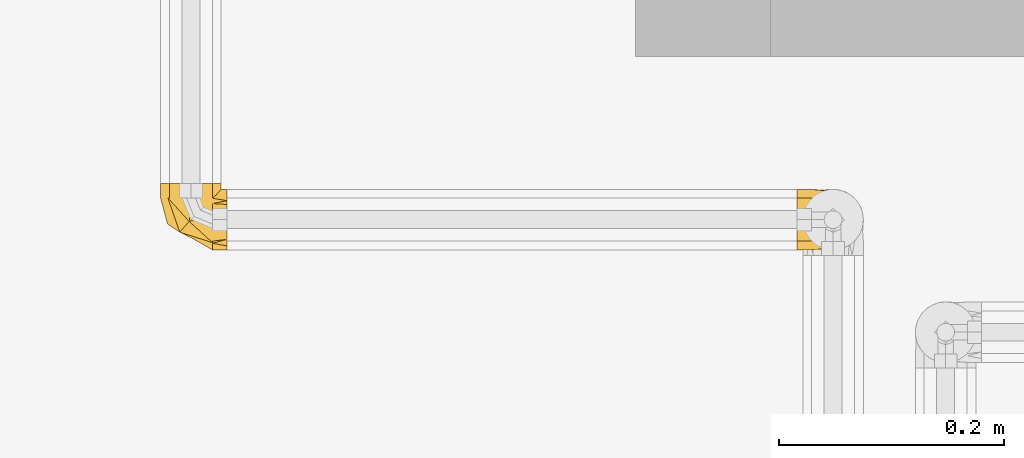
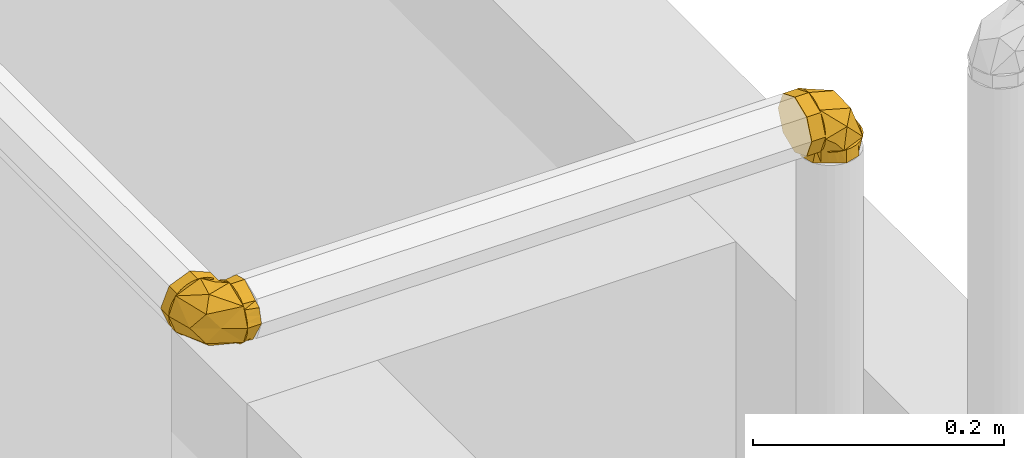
# One storey, part 386 of 652: 2 coverings.
"""IFC2X3 building model written with IfcOpenShell, lengths in millimetres."""

from ifc_helpers import new_model, entity, si_unit, converted_unit, direction, frame, origin, place, context, subcontext, project, spatial, face_set, surface_model, material, type_object, element, save


model = new_model("IFC2X3")

# Units and contexts
model_context = context("Model", 3, precision=0.01, world=frame((0.0, 0.0, 308426.39999999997)), true_north=direction((6.123233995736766e-17, 1.0)))
plan_context = context("Plan", 3, precision=0.01, world=frame((0.0, 0.0, 308426.39999999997)), true_north=direction((6.123233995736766e-17, 1.0)))
body_context = subcontext(model_context, "Body", "Model", "MODEL_VIEW")
ifc_project = project(units=[si_unit("LENGTHUNIT", "METRE", prefix="MILLI"), si_unit("AREAUNIT", "SQUARE_METRE"), si_unit("VOLUMEUNIT", "CUBIC_METRE"), converted_unit("PLANEANGLEUNIT", "DEGREE", entity("IfcPlaneAngleMeasure", 0.017453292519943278), si_unit("PLANEANGLEUNIT", "RADIAN"), dimensions=[0, 0, 0, 0, 0, 0, 0])], contexts=[model_context, plan_context])

# Site, building, storey
site_placement = place(None, origin())
site = spatial("IfcSite", under=ifc_project, at=site_placement, Name="Default", CompositionType="ELEMENT")
building_placement = place(site_placement, origin())
building = spatial("IfcBuilding", under=site, at=building_placement, CompositionType="ELEMENT")
storey_placement = place(building_placement, frame((0.0, 0.0, 1730.6999999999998)))
storey = spatial("IfcBuildingStorey", under=building, at=storey_placement, Name="EG_Produktion_FFB", CompositionType="ELEMENT", Elevation=1730.6999999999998)

# Coverings
ifc_material = material(Name="Dämmung - Armaflex-Schlauch")
covering_type = type_object("IfcCoveringType", Name="Rohrdämmung außen:Armaflex-Schlauch", PredefinedType="INSULATION")
covering_1_placement = place(storey_placement, frame((65626.46722776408, 48926.31488771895, 3771.467227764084)))
element("IfcCovering", 1, at=covering_1_placement, inside=storey, type_object=covering_type, material=ifc_material, Name="Rohrdämmung außen:Armaflex-Schlauch", ObjectType="Rohrdämmung außen:Armaflex-Schlauch", PredefinedType="INSULATION", context=body_context, shape_type="SurfaceModel", body=[
    surface_model("IfcFaceBasedSurfaceModel", [(47.750272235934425, 47.75027223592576, 9.656421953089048), (42.79223424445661, 47.75027223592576, 51.38658262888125), (37.040242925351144, 47.75027223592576, 54.09156424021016), (30.81456370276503, 47.75027223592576, 55.373456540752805), (24.461836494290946, 47.75027223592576, 55.16088498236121), (18.3357751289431, 47.75027223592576, 53.46568534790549), (12.777472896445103, 47.75027223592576, 50.38224474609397), (8.096410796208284, 47.750272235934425, 46.08224622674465), (4.553225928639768, 47.750272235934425, 40.805109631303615), (2.345199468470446, 47.750272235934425, 34.844660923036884), (1.5952722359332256, 47.750272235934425, 28.532772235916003), (2.345199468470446, 47.750272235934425, 22.220883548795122), (4.553225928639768, 47.750272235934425, 16.260434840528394), (8.096410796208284, 47.750272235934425, 10.98329824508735), (12.777472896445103, 47.75027223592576, 6.683299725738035), (18.3357751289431, 47.75027223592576, 3.599859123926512), (24.461836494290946, 47.75027223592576, 1.904659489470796), (30.81456370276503, 47.75027223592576, 1.6920879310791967), (37.040242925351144, 47.75027223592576, 2.973980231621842), (42.79223424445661, 47.75027223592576, 5.678961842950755), (47.750272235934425, 47.75027223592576, 47.40912251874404), (47.750272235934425, 42.79223424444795, 5.678961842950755), (47.750272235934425, 37.040242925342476, 2.973980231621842), (47.750272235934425, 30.81456370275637, 1.6920879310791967), (47.750272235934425, 24.461836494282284, 1.904659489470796), (47.750272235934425, 18.33577512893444, 3.599859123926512), (47.750272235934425, 12.77747289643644, 6.683299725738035), (47.75027223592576, 8.09641079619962, 10.98329824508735), (47.75027223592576, 4.553225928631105, 16.260434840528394), (47.75027223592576, 2.345199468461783, 22.220883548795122), (47.75027223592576, 1.5952722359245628, 28.532772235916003), (47.75027223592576, 2.345199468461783, 34.844660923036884), (47.75027223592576, 4.553225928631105, 40.805109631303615), (47.75027223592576, 8.09641079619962, 46.08224622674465), (47.750272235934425, 12.77747289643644, 50.38224474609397), (47.750272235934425, 18.33577512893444, 53.46568534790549), (47.750272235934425, 24.461836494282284, 55.16088498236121), (47.750272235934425, 30.81456370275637, 55.373456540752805), (47.750272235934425, 37.040242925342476, 54.09156424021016), (47.750272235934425, 42.79223424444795, 51.38658262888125), (39.068807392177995, 37.80802487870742, 2.2764383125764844), (7.777694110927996, 24.673942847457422, 28.53297517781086), (19.456051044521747, 47.75160398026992, 6.3378183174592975), (26.953267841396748, 26.952873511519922, 3.5996133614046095), (18.674703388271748, 17.33485593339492, 14.285007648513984), (29.487996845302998, 12.13982419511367, 28.53297517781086), (47.751998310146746, 19.45565671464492, 6.3378183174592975), (18.674703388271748, 17.33485593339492, 42.78036134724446), (39.068807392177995, 37.80802487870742, 54.789512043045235), (26.953267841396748, 26.952873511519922, 53.46575563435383), (47.751998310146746, 19.45565671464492, 50.72813203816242), (19.456051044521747, 47.75160398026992, 50.72813203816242), (1.5952722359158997, 60.516522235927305, 28.532772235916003), (3.567725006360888, 60.516522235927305, 33.29469446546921), (5.540177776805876, 60.516522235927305, 38.05661669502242), (7.512630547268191, 60.516522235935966, 42.818538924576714), (9.485083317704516, 60.516522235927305, 47.58046115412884), (14.247005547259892, 60.516522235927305, 49.552913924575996), (19.008927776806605, 60.516522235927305, 51.525366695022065), (23.77085000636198, 60.516522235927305, 53.49781946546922), (28.532772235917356, 60.516522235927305, 55.470272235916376), (33.29469446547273, 60.516522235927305, 53.49781946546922), (38.056616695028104, 60.516522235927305, 51.525366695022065), (42.81853892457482, 60.516522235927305, 49.552913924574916), (47.5804611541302, 60.516522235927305, 47.58046115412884), (49.552913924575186, 60.516522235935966, 42.818538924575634), (51.525366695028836, 60.516522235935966, 38.05661669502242), (53.497819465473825, 60.516522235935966, 33.29469446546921), (55.47027223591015, 60.516522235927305, 28.532772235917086), (53.497819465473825, 60.516522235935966, 23.770850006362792), (51.525366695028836, 60.516522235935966, 19.008927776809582), (49.55291392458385, 60.516522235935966, 14.247005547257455), (47.5804611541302, 60.516522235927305, 9.485083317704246), (42.81853892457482, 60.516522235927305, 7.512630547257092), (38.056616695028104, 60.516522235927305, 5.540177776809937), (33.29469446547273, 60.516522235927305, 3.567725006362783), (28.532772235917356, 60.516522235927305, 1.595272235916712), (23.770850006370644, 60.516522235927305, 3.567725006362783), (19.008927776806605, 60.516522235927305, 5.540177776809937), (14.247005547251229, 60.516522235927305, 7.512630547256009), (9.485083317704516, 60.516522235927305, 9.485083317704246), (7.512630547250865, 60.516522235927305, 14.247005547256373), (5.540177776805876, 60.516522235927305, 19.008927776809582), (3.567725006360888, 60.516522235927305, 23.770850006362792), (1.5952722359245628, 47.75027223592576, 28.532772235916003), (3.567725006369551, 47.75027223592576, 23.770850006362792), (5.540177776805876, 47.75027223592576, 19.0089277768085), (7.512630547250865, 47.75027223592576, 14.24700554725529), (9.48508331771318, 47.75027223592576, 9.485083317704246), (15.253472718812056, 47.75027223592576, 7.095738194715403), (21.02186211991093, 47.7502722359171, 4.7063930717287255), (28.532772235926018, 47.75027223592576, 1.595272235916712), (33.29469446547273, 47.75027223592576, 3.567725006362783), (38.056616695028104, 47.75027223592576, 5.540177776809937), (42.81853892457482, 47.75027223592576, 7.512630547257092), (47.58046115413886, 47.75027223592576, 9.485083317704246), (49.96980627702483, 47.75027223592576, 15.25347271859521), (52.35915139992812, 47.75027223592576, 21.021862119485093), (55.47027223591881, 47.75027223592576, 28.532772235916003), (53.49781946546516, 47.75027223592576, 33.29469446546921), (51.525366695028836, 47.75027223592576, 38.05661669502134), (49.55291392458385, 47.75027223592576, 42.81853892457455), (47.58046115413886, 47.75027223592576, 47.58046115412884), (41.8120717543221, 47.75027223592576, 49.96980627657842), (36.043682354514, 47.750272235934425, 52.359151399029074), (28.532772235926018, 47.75027223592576, 55.470272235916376), (23.77085000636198, 47.75027223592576, 53.49781946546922), (19.008927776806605, 47.75027223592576, 51.52536669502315), (14.247005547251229, 47.7502722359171, 49.552913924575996), (9.48508331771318, 47.75027223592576, 47.58046115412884), (7.095738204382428, 47.75027223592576, 41.81207177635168), (4.706393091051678, 47.75027223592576, 36.043682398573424), (60.51652223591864, 1.5952722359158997, 28.532772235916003), (60.51652223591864, 4.962459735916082, 22.700632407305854), (60.51652223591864, 8.329647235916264, 16.868492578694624), (60.51652223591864, 11.696834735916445, 11.036352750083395), (60.51652223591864, 15.064022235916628, 5.204212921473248), (60.51652223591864, 21.79839723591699, 3.399742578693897), (60.51652223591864, 28.532772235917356, 1.595272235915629), (60.516522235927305, 34.36491206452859, 4.962459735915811), (60.51652223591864, 40.197051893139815, 8.329647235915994), (60.51652223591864, 46.02919172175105, 11.696834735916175), (60.51652223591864, 51.86133155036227, 15.064022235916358), (60.51652223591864, 53.66580189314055, 21.79839723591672), (60.51652223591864, 55.47027223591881, 28.532772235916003), (60.516522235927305, 52.10308473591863, 34.36491206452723), (60.51652223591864, 48.73589723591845, 40.19705189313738), (60.51652223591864, 45.368709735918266, 46.02919172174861), (60.51652223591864, 42.00152223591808, 51.86133155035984), (60.51652223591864, 35.26714723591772, 53.66580189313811), (60.51652223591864, 28.532772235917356, 55.470272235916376), (60.516522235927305, 22.700632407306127, 52.10308473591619), (60.51652223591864, 16.868492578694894, 48.73589723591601), (60.51652223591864, 11.036352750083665, 45.36870973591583), (60.51652223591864, 5.204212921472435, 42.00152223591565), (60.51652223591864, 3.3997425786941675, 35.26714723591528), (47.750272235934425, 33.29469446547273, 53.49781946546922), (47.75027223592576, 38.056616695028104, 51.525366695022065), (47.750272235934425, 42.818538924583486, 49.552913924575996), (47.75027223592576, 47.5804611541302, 47.58046115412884), (47.75027223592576, 49.552913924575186, 42.818538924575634), (47.75027223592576, 51.525366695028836, 38.05661669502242), (47.75027223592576, 53.497819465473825, 33.29469446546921), (47.75027223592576, 55.47027223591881, 28.532772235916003), (47.75027223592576, 53.497819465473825, 23.770850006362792), (47.75027223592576, 51.525366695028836, 19.008927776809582), (47.750272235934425, 49.55291392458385, 14.247005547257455), (47.75027223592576, 47.5804611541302, 9.485083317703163), (47.7502722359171, 42.81853892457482, 7.512630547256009), (47.75027223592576, 38.056616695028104, 5.540177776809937), (47.75027223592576, 33.29469446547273, 3.567725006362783), (47.75027223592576, 28.532772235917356, 1.595272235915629), (47.75027223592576, 23.77085000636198, 3.567725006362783), (47.75027223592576, 19.008927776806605, 5.540177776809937), (47.7502722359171, 14.247005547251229, 7.512630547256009), (47.75027223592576, 9.485083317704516, 9.485083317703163), (47.75027223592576, 7.512630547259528, 14.247005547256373), (47.75027223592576, 5.540177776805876, 19.008927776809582), (47.7502722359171, 3.567725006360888, 23.77085000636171), (47.75027223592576, 1.5952722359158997, 28.532772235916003), (47.75027223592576, 3.567725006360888, 33.29469446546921), (47.75027223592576, 5.540177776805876, 38.05661669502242), (47.7502722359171, 7.512630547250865, 42.81853892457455), (47.75027223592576, 9.485083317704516, 47.58046115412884), (47.75027223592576, 14.247005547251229, 49.552913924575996), (47.75027223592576, 19.008927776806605, 51.525366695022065), (47.75027223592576, 23.77085000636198, 53.49781946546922), (47.75027223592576, 28.532772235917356, 55.470272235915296)], [face_set([[[0, 1, 2, 3, 4, 5, 6, 7, 8, 9, 10, 11, 12, 13, 14, 15, 16, 17, 18, 19]], [[20, 21, 22, 23, 24, 25, 26, 27, 28, 29, 30, 31, 32, 33, 34, 35, 36, 37, 38, 39]], [[0, 40, 17]], [[10, 13, 41]], [[42, 17, 43, 13]], [[40, 43, 17]], [[23, 40, 0]], [[13, 43, 44]], [[45, 41, 44]], [[13, 44, 41]], [[27, 30, 45]], [[45, 44, 27]], [[43, 27, 44]], [[43, 23, 46, 27]], [[23, 43, 40]], [[7, 10, 41]], [[33, 47, 45]], [[45, 30, 33]], [[48, 49, 37]], [[49, 33, 50]], [[3, 49, 48]], [[45, 47, 41]], [[20, 48, 37]], [[47, 49, 7]], [[3, 48, 20]], [[41, 47, 7]], [[49, 3, 51]], [[33, 49, 47]], [[50, 37, 49]], [[51, 7, 49]]]), face_set([[[52, 53, 54, 55, 56, 57, 58, 59, 60, 61, 62, 63, 64, 65, 66, 67, 68, 69, 70, 71, 72, 73, 74, 75, 76, 77, 78, 79, 80, 81, 82, 83]], [[84, 85, 86, 87, 88, 89, 90, 91, 92, 93, 94, 95, 96, 97, 98, 99, 100, 101, 102, 103, 104, 105, 106, 107, 108, 109, 110, 111]], [[111, 110, 109, 56, 55, 54, 53, 52, 84]], [[56, 109, 108, 107, 106, 105, 60, 59, 58, 57]], [[104, 103, 102, 64, 63, 62, 61, 60, 105]], [[64, 102, 101, 100, 99, 98, 68, 67, 66, 65]], [[97, 96, 95, 72, 71, 70, 69, 68, 98]], [[72, 95, 94, 93, 92, 91, 76, 75, 74, 73]], [[90, 89, 88, 80, 79, 78, 77, 76, 91]], [[80, 88, 87, 86, 85, 84, 52, 83, 82, 81]]]), face_set([[[112, 113, 114, 115, 116, 117, 118, 119, 120, 121, 122, 123, 124, 125, 126, 127, 128, 129, 130, 131, 132, 133, 134, 135]], [[136, 137, 138, 139, 140, 141, 142, 143, 144, 145, 146, 147, 148, 149, 150, 151, 152, 153, 154, 155, 156, 157, 158, 159, 160, 161, 162, 163, 164, 165, 166, 167]], [[146, 121, 147]], [[118, 150, 119]], [[150, 149, 119]], [[123, 145, 144]], [[144, 143, 124]], [[121, 146, 122]], [[120, 149, 148]], [[118, 151, 150]], [[149, 120, 119]], [[124, 123, 144]], [[148, 147, 121]], [[146, 145, 122]], [[123, 122, 145]], [[120, 148, 121]], [[154, 115, 155]], [[112, 158, 113]], [[158, 157, 113]], [[117, 153, 152]], [[152, 151, 118]], [[115, 154, 116]], [[114, 157, 156]], [[112, 159, 158]], [[157, 114, 113]], [[118, 117, 152]], [[156, 155, 115]], [[154, 153, 116]], [[117, 116, 153]], [[114, 156, 115]], [[162, 133, 163]], [[130, 166, 131]], [[166, 165, 131]], [[135, 161, 160]], [[160, 159, 112]], [[133, 162, 134]], [[132, 165, 164]], [[130, 167, 166]], [[165, 132, 131]], [[112, 135, 160]], [[164, 163, 133]], [[162, 161, 134]], [[135, 134, 161]], [[132, 164, 133]], [[138, 127, 139]], [[124, 142, 125]], [[142, 141, 125]], [[129, 137, 136]], [[136, 167, 130]], [[127, 138, 128]], [[126, 141, 140]], [[124, 143, 142]], [[141, 126, 125]], [[130, 129, 136]], [[140, 139, 127]], [[138, 137, 128]], [[129, 128, 137]], [[126, 140, 127]]])]),
])
covering_2_placement = place(storey_placement, frame((66193.50701735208, 48926.31488771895, 3828.532772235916)))
element("IfcCovering", 2, at=covering_2_placement, inside=storey, type_object=covering_type, material=ifc_material, Name="Rohrdämmung außen:Armaflex-Schlauch", ObjectType="Rohrdämmung außen:Armaflex-Schlauch", PredefinedType="INSULATION", context=body_context, shape_type="SurfaceModel", body=[
    surface_model("IfcFaceBasedSurfaceModel", [(12.766250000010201, 9.65642195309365, -47.75027223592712), (12.766250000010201, 5.678961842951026, -42.79223424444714), (12.766250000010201, 2.973980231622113, -37.040242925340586), (12.766250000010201, 1.6920879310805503, -30.814563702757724), (12.766250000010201, 1.904659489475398, -24.461836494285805), (12.766250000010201, 3.599859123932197, -18.335775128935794), (12.766250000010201, 6.683299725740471, -12.77747289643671), (12.766250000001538, 10.983298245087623, -8.096410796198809), (12.766250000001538, 16.26043484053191, -4.553225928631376), (12.766250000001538, 22.220883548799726, -2.3451994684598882), (12.766250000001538, 28.532772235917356, -1.595272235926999), (12.766250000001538, 34.844660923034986, -2.3451994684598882), (12.766250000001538, 40.8051096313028, -4.553225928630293), (12.766250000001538, 46.08224622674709, -8.096410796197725), (12.766250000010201, 50.38224474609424, -12.77747289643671), (12.766250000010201, 53.465685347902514, -18.33577512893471), (12.766250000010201, 55.16088498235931, -24.461836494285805), (12.766250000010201, 55.37345654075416, -30.814563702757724), (12.766250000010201, 54.0915642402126, -37.040242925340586), (12.766250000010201, 51.38658262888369, -42.79223424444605), (12.766250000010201, 47.409122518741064, -47.75027223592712), (17.72428799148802, 51.38658262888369, -47.75027223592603), (23.476279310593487, 54.0915642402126, -47.75027223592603), (29.701958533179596, 55.37345654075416, -47.75027223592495), (36.05468574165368, 55.16088498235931, -47.75027223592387), (42.18074710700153, 53.465685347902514, -47.75027223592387), (47.73904933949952, 50.38224474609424, -47.750272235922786), (52.420111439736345, 46.08224622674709, -47.750272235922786), (55.96329630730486, 40.8051096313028, -47.750272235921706), (58.17132276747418, 34.844660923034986, -47.750272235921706), (58.921250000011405, 28.532772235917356, -47.750272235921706), (58.17132276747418, 22.220883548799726, -47.750272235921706), (55.96329630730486, 16.26043484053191, -47.750272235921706), (52.420111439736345, 10.983298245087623, -47.750272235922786), (47.73904933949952, 6.683299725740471, -47.750272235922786), (42.18074710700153, 3.599859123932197, -47.75027223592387), (36.05468574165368, 1.904659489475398, -47.75027223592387), (29.701958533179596, 1.6920879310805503, -47.75027223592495), (23.476279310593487, 2.973980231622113, -47.75027223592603), (17.72428799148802, 5.678961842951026, -47.75027223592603), (22.70703294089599, 2.27531003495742, -39.06971681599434), (35.84576585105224, 28.534172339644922, -7.778603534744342), (12.768104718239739, 6.33552732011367, -19.455216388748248), (33.56683518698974, 3.60081052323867, -26.951270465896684), (43.18485276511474, 14.28387937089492, -18.67503145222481), (48.37523362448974, 28.534172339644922, -29.486580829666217), (41.05940110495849, 6.33552732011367, -47.750000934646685), (43.18485276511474, 42.779814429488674, -18.67503145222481), (33.56683518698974, 53.46753415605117, -26.951270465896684), (22.70703294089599, 54.78838376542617, -39.06971681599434), (41.05940110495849, 50.72816648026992, -47.750000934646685), (12.768104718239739, 50.72816648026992, -19.455216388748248), (0.0, 28.532772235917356, -1.5952722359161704), (0.0, 33.29469446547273, -3.567725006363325), (0.0, 38.056616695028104, -5.540177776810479), (0.0, 42.818538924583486, -7.51263054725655), (0.0, 47.5804611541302, -9.485083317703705), (0.0, 49.55291392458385, -14.247005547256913), (0.0, 51.525366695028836, -19.008927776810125), (0.0, 53.497819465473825, -23.770850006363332), (0.0, 55.47027223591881, -28.532772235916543), (0.0, 53.497819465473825, -33.29469446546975), (0.0, 51.525366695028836, -38.05661669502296), (0.0, 49.552913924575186, -42.818538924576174), (0.0, 47.5804611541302, -47.58046115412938), (0.0, 42.818538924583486, -49.552913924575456), (0.0, 38.056616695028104, -51.52536669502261), (0.0, 33.29469446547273, -53.49781946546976), (0.0, 28.532772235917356, -55.470272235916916), (0.0, 23.77085000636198, -53.49781946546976), (0.0, 19.008927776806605, -51.52536669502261), (0.0, 14.247005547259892, -49.552913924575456), (0.0, 9.485083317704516, -47.58046115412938), (0.0, 7.512630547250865, -42.818538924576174), (0.0, 5.540177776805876, -38.05661669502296), (0.0, 3.567725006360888, -33.29469446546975), (0.0, 1.5952722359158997, -28.532772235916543), (0.0, 3.567725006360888, -23.770850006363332), (0.0, 5.540177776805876, -19.008927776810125), (0.0, 7.512630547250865, -14.247005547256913), (0.0, 9.485083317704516, -9.485083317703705), (0.0, 14.247005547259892, -7.51263054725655), (0.0, 19.008927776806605, -5.540177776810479), (0.0, 23.77085000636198, -3.567725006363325), (12.766250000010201, 28.532772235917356, -1.5952722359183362), (12.766250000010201, 23.77085000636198, -3.567725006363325), (12.766250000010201, 19.008927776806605, -5.540177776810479), (12.766250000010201, 14.247005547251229, -7.512630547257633), (12.766250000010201, 9.485083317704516, -9.48508331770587), (12.766250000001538, 7.095738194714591, -15.25347271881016), (12.766250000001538, 4.706393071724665, -21.021862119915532), (12.766250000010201, 1.5952722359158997, -28.53277223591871), (12.766250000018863, 3.567725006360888, -33.29469446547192), (12.766250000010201, 5.540177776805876, -38.05661669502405), (12.766250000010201, 7.512630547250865, -42.818538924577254), (12.766250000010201, 9.485083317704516, -47.58046115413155), (12.766250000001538, 15.253472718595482, -49.96980627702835), (12.766250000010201, 21.021862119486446, -52.35915139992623), (12.766250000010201, 28.532772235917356, -55.47027223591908), (12.766250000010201, 33.29469446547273, -53.49781946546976), (12.766250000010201, 38.056616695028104, -51.52536669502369), (12.766250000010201, 42.818538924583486, -49.552913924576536), (12.766250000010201, 47.5804611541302, -47.58046115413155), (12.766250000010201, 49.96980627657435, -41.81207175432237), (12.766250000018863, 52.359151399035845, -36.04368235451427), (12.766250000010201, 55.47027223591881, -28.53277223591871), (12.766250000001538, 53.497819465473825, -23.7708500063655), (12.766250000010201, 51.525366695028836, -19.008927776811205), (12.766250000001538, 49.552913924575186, -14.247005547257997), (12.766250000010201, 47.5804611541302, -9.48508331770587), (12.766250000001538, 41.81207177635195, -7.09573820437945), (12.766250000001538, 36.0436823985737, -4.7063930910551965), (58.921250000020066, 28.532772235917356, -60.51652223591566), (55.55406250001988, 22.700632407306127, -60.51652223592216), (52.186875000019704, 16.868492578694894, -60.51652223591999), (48.81968750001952, 11.036352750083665, -60.516522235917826), (45.452500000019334, 5.204212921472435, -60.51652223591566), (38.71812500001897, 3.3997425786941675, -60.51652223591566), (31.98375000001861, 1.5952722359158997, -60.51652223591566), (26.151610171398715, 4.962459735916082, -60.51652223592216), (20.319470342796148, 8.329647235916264, -60.51652223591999), (14.487330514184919, 11.696834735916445, -60.516522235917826), (8.65519068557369, 15.064022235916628, -60.51652223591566), (6.850720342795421, 21.79839723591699, -60.51652223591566), (5.046250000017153, 28.532772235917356, -60.51652223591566), (8.413437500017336, 34.36491206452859, -60.51652223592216), (11.780625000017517, 40.197051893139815, -60.51652223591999), (15.1478125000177, 46.02919172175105, -60.516522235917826), (18.51500000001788, 51.86133155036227, -60.51652223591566), (25.249375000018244, 53.66580189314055, -60.51652223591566), (31.98375000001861, 55.47027223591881, -60.51652223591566), (37.81588982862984, 52.10308473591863, -60.51652223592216), (43.64802965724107, 48.73589723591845, -60.51652223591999), (49.48016948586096, 45.368709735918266, -60.516522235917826), (55.312309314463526, 42.00152223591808, -60.51652223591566), (57.1167796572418, 35.26714723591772, -60.51652223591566), (58.921250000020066, 28.532772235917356, -47.75027223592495), (56.94879722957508, 33.29469446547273, -47.75027223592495), (54.97634445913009, 38.056616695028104, -47.75027223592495), (53.00389168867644, 42.81853892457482, -47.75027223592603), (51.03143891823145, 47.5804611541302, -47.75027223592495), (46.26951668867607, 49.55291392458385, -47.75027223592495), (41.50759445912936, 51.525366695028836, -47.75027223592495), (36.745672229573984, 53.497819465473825, -47.75027223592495), (31.98375000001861, 55.47027223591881, -47.75027223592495), (27.221827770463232, 53.497819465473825, -47.75027223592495), (22.459905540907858, 51.525366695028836, -47.75027223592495), (17.697983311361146, 49.55291392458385, -47.75027223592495), (12.93606108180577, 47.5804611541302, -47.75027223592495), (10.963608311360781, 42.81853892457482, -47.75027223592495), (8.99115554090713, 38.056616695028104, -47.75027223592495), (7.018702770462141, 33.29469446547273, -47.75027223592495), (5.046250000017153, 28.532772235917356, -47.75027223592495), (7.018702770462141, 23.77085000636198, -47.75027223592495), (8.99115554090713, 19.008927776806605, -47.75027223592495), (10.963608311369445, 14.247005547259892, -47.75027223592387), (12.93606108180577, 9.485083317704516, -47.75027223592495), (17.697983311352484, 7.512630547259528, -47.75027223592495), (22.459905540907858, 5.540177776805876, -47.75027223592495), (27.221827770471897, 3.567725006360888, -47.75027223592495), (31.98375000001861, 1.5952722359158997, -47.75027223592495), (36.745672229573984, 3.567725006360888, -47.75027223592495), (41.50759445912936, 5.540177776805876, -47.75027223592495), (46.26951668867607, 7.512630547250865, -47.75027223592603), (51.03143891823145, 9.485083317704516, -47.75027223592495), (53.0038916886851, 14.247005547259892, -47.75027223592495), (54.97634445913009, 19.008927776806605, -47.75027223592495), (56.948797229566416, 23.77085000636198, -47.75027223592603)], [face_set([[[0, 1, 2, 3, 4, 5, 6, 7, 8, 9, 10, 11, 12, 13, 14, 15, 16, 17, 18, 19]], [[20, 21, 22, 23, 24, 25, 26, 27, 28, 29, 30, 31, 32, 33, 34, 35, 36, 37, 38, 39]], [[0, 40, 3]], [[10, 7, 41]], [[42, 3, 43]], [[40, 43, 3]], [[37, 40, 0]], [[7, 43, 44]], [[45, 41, 44]], [[7, 44, 41]], [[33, 30, 45]], [[45, 44, 33]], [[43, 33, 44]], [[43, 37, 46]], [[43, 7, 42]], [[37, 43, 40]], [[46, 33, 43]], [[13, 10, 41]], [[27, 47, 45]], [[45, 30, 27]], [[48, 47, 27]], [[49, 48, 23]], [[48, 50, 23]], [[45, 47, 41]], [[20, 49, 23]], [[47, 48, 13]], [[17, 49, 20]], [[41, 47, 13]], [[48, 17, 51]], [[48, 27, 50]], [[17, 48, 49]], [[51, 13, 48]]]), face_set([[[52, 53, 54, 55, 56, 57, 58, 59, 60, 61, 62, 63, 64, 65, 66, 67, 68, 69, 70, 71, 72, 73, 74, 75, 76, 77, 78, 79, 80, 81, 82, 83]], [[84, 85, 86, 87, 88, 89, 90, 91, 92, 93, 94, 95, 96, 97, 98, 99, 100, 101, 102, 103, 104, 105, 106, 107, 108, 109, 110, 111]], [[111, 110, 109, 56, 55, 54, 53, 52, 84]], [[56, 109, 108, 107, 106, 105, 60, 59, 58, 57]], [[104, 103, 102, 64, 63, 62, 61, 60, 105]], [[64, 102, 101, 100, 99, 98, 68, 67, 66, 65]], [[97, 96, 95, 72, 71, 70, 69, 68, 98]], [[72, 95, 94, 93, 92, 91, 76, 75, 74, 73]], [[90, 89, 88, 80, 79, 78, 77, 76, 91]], [[80, 88, 87, 86, 85, 84, 52, 83, 82, 81]]]), face_set([[[112, 113, 114, 115, 116, 117, 118, 119, 120, 121, 122, 123, 124, 125, 126, 127, 128, 129, 130, 131, 132, 133, 134, 135]], [[136, 137, 138, 139, 140, 141, 142, 143, 144, 145, 146, 147, 148, 149, 150, 151, 152, 153, 154, 155, 156, 157, 158, 159, 160, 161, 162, 163, 164, 165, 166, 167]], [[155, 121, 156]], [[118, 159, 119]], [[159, 158, 119]], [[123, 154, 153]], [[153, 152, 124]], [[121, 155, 122]], [[120, 158, 157]], [[118, 160, 159]], [[158, 120, 119]], [[124, 123, 153]], [[157, 156, 121]], [[155, 154, 122]], [[123, 122, 154]], [[120, 157, 121]], [[163, 115, 164]], [[112, 167, 113]], [[167, 166, 113]], [[117, 162, 161]], [[161, 160, 118]], [[115, 163, 116]], [[114, 166, 165]], [[112, 136, 167]], [[166, 114, 113]], [[118, 117, 161]], [[165, 164, 115]], [[163, 162, 116]], [[117, 116, 162]], [[114, 165, 115]], [[139, 133, 140]], [[130, 143, 131]], [[143, 142, 131]], [[135, 138, 137]], [[137, 136, 112]], [[133, 139, 134]], [[132, 142, 141]], [[130, 144, 143]], [[142, 132, 131]], [[112, 135, 137]], [[141, 140, 133]], [[139, 138, 134]], [[135, 134, 138]], [[132, 141, 133]], [[147, 127, 148]], [[124, 151, 125]], [[151, 150, 125]], [[129, 146, 145]], [[145, 144, 130]], [[127, 147, 128]], [[126, 150, 149]], [[124, 152, 151]], [[150, 126, 125]], [[130, 129, 145]], [[149, 148, 127]], [[147, 146, 128]], [[129, 128, 146]], [[126, 149, 127]]])]),
])

save(model, "model.ifc")
